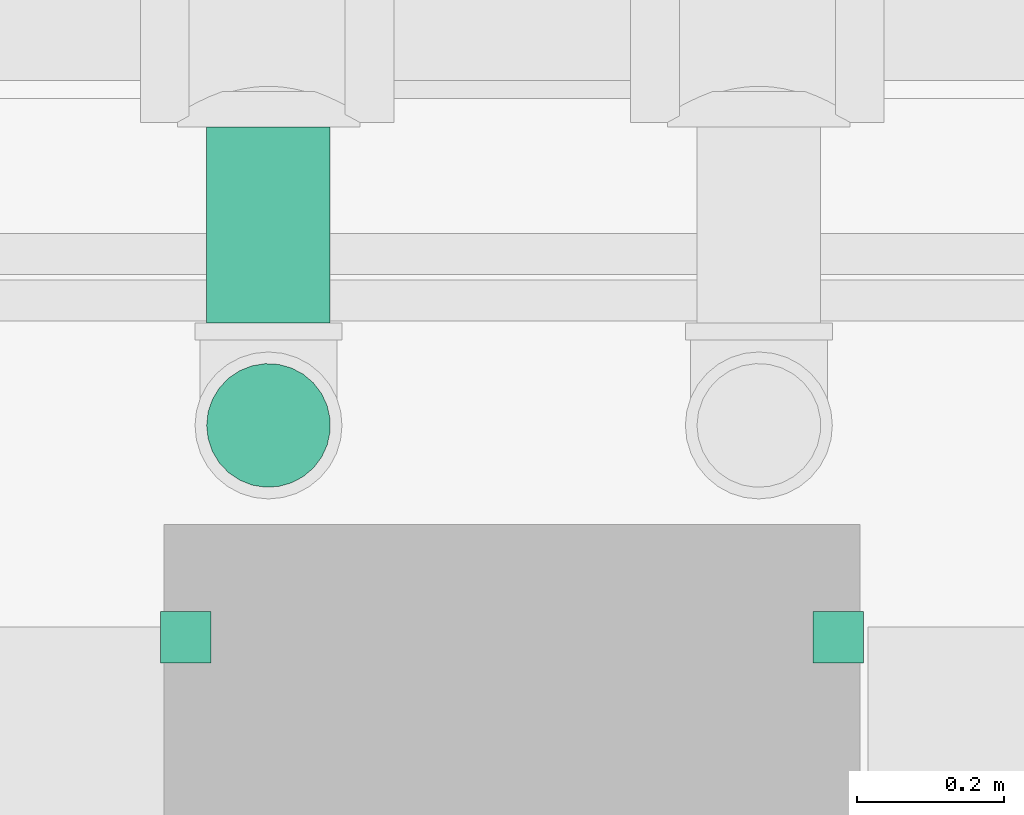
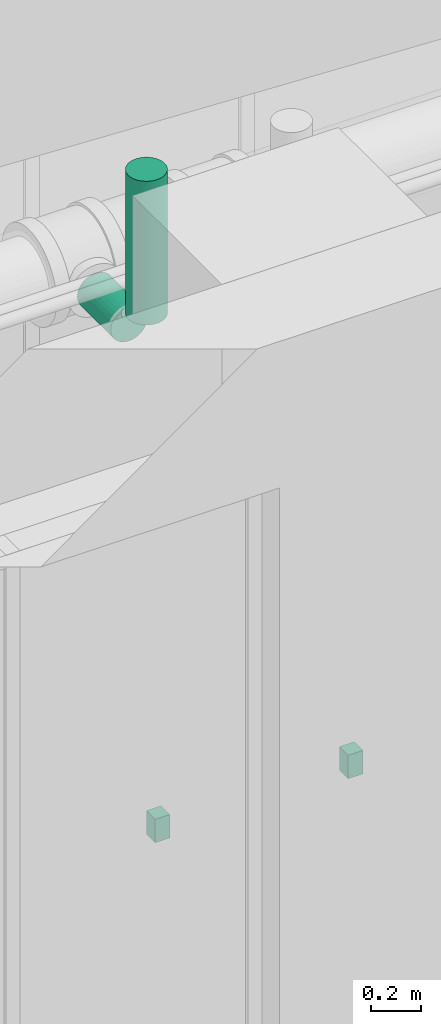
# One storey, part 75 of 108: 2 outlets, 2 pipe segments.
"""IFC4 building model written with IfcOpenShell, lengths in feet."""

from ifc_helpers import new_model, entity, si_unit, converted_unit, derived_unit, direction, frame, frame_2d, origin, origin_2d_with_axis, place, context, subcontext, project, spatial, rectangle, circle, extrude, source, transform, mapped, type_object, type_shapes, element, save


model = new_model("IFC4")

# Units and contexts
model_context = context("Model", 3, precision=0.0001, world=origin(), true_north=direction((6.12303176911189e-17, 1.0)))
body_context = subcontext(model_context, "Body", "Model", "MODEL_VIEW")
ifc_project = project(units=[converted_unit("LENGTHUNIT", "FOOT", entity("IfcRatioMeasure", 0.3048), si_unit("LENGTHUNIT", "METRE"), dimensions=[1, 0, 0, 0, 0, 0, 0]), converted_unit("AREAUNIT", "SQUARE FOOT", entity("IfcRatioMeasure", 0.09290304), si_unit("AREAUNIT", "SQUARE_METRE"), dimensions=[2, 0, 0, 0, 0, 0, 0]), converted_unit("VOLUMEUNIT", "CUBIC FOOT", entity("IfcRatioMeasure", 0.028316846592), si_unit("VOLUMEUNIT", "CUBIC_METRE"), dimensions=[3, 0, 0, 0, 0, 0, 0]), converted_unit("PLANEANGLEUNIT", "DEGREE", entity("IfcRatioMeasure", 0.0174532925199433), si_unit("PLANEANGLEUNIT", "RADIAN"), dimensions=[0, 0, 0, 0, 0, 0, 0]), si_unit("MASSUNIT", "GRAM", prefix="KILO"), derived_unit("MASSDENSITYUNIT", [(si_unit("MASSUNIT", "GRAM", prefix="KILO"), 1), (si_unit("LENGTHUNIT", "METRE"), -3)]), si_unit("TIMEUNIT", "SECOND"), si_unit("FREQUENCYUNIT", "HERTZ"), si_unit("THERMODYNAMICTEMPERATUREUNIT", "DEGREE_CELSIUS"), derived_unit("THERMALTRANSMITTANCEUNIT", [(si_unit("MASSUNIT", "GRAM", prefix="KILO"), 1), (si_unit("THERMODYNAMICTEMPERATUREUNIT", "KELVIN"), -1), (si_unit("TIMEUNIT", "SECOND"), -3)]), derived_unit("VOLUMETRICFLOWRATEUNIT", [(si_unit("LENGTHUNIT", "METRE"), 3), (si_unit("TIMEUNIT", "SECOND"), -1)]), si_unit("ELECTRICCURRENTUNIT", "AMPERE"), si_unit("ELECTRICVOLTAGEUNIT", "VOLT"), si_unit("POWERUNIT", "WATT"), si_unit("FORCEUNIT", "NEWTON"), si_unit("ILLUMINANCEUNIT", "LUX"), si_unit("LUMINOUSFLUXUNIT", "LUMEN"), si_unit("LUMINOUSINTENSITYUNIT", "CANDELA"), derived_unit("USERDEFINED", [(si_unit("MASSUNIT", "GRAM", prefix="KILO"), -1), (si_unit("LENGTHUNIT", "METRE"), -2), (si_unit("TIMEUNIT", "SECOND"), 3), (si_unit("LUMINOUSFLUXUNIT", "LUMEN"), 1)]), derived_unit("LINEARVELOCITYUNIT", [(si_unit("LENGTHUNIT", "METRE"), 1), (si_unit("TIMEUNIT", "SECOND"), -1)]), si_unit("PRESSUREUNIT", "PASCAL"), derived_unit("USERDEFINED", [(si_unit("LENGTHUNIT", "METRE"), -2), (si_unit("MASSUNIT", "GRAM", prefix="KILO"), 1), (si_unit("TIMEUNIT", "SECOND"), -2)])], contexts=[model_context])

# Site, building, storey
site_placement = place(None, origin())
site = spatial("IfcSite", under=ifc_project, at=site_placement, Name="Default", CompositionType="ELEMENT")
building_placement = place(site_placement, origin())
building = spatial("IfcBuilding", under=site, at=building_placement, CompositionType="ELEMENT")
storey_placement = place(building_placement, frame((0.0, 0.0, 168.0)))
storey = spatial("IfcBuildingStorey", under=building, at=storey_placement, Name="Level 15", CompositionType="ELEMENT", Elevation=168.0)

# Outlets
outlet_type = type_object("IfcOutletType", Name="Duplex-Standard 2", PredefinedType="POWEROUTLET")
shared_shape = source(origin(), body_context, "Body", "SweptSolid", [
    extrude(rectangle(XDim=0.229166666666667, YDim=0.375000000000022, at=origin_2d_with_axis()), frame((0.0, 0.0, -0.208333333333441), z_axis=(0.0, 0.0, 1.0), x_axis=(-1.0, 0.0, 0.0)), (0.0, 0.0, 1.0), 0.208333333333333),
    extrude(rectangle(XDim=0.229166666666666, YDim=0.375000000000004, at=origin_2d_with_axis()), frame((0.0, 0.0, 0.0), z_axis=(0.0, 0.0, 1.0), x_axis=(-1.0, 0.0, 0.0)), (0.0, 0.0, 1.0), 0.015625),
])
type_shapes(outlet_type, [shared_shape])
for number, where, z_axis, x_axis, name in (
    (1, (-0.90209263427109, -19.7657690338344, 2.3333333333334), (-1.0, 0.0, 0.0), (0.0, -1.0, 0.0), "Power-Recessed-All2:Duplex-Standard 2"),
    (2, (2.20213174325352, -19.7657690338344, 2.3333333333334), (1.0, 0.0, 0.0), (0.0, 1.0, 0.0), "Power-Recessed-All2:Duplex-Standard 2"),
):
    element("IfcOutlet", number, at=place(storey_placement, frame(where, z_axis=z_axis, x_axis=x_axis)), inside=storey, type_object=outlet_type, Name=name, ObjectType="Power-Recessed-All2:Duplex-Standard 2", PredefinedType="POWEROUTLET", context=body_context, shape_type="MappedRepresentation", body=[
        mapped(shared_shape, transform((0.0, 0.0, 0.0), scale=1.0)),
    ])

# Pipe segments
pipe_segment_type = type_object("IfcPipeSegmentType", Name="Pipe Types:Hydronic", PredefinedType="NOTDEFINED")
pipe_segment_1_placement = place(storey_placement, frame((-0.717435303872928, -19.1021378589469, 9.78127604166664)))
element("IfcPipeSegment", 3, at=pipe_segment_1_placement, inside=storey, type_object=pipe_segment_type, Name="Pipe Types:Hydronic", ObjectType="Pipe Types:Hydronic", PredefinedType="NOTDEFINED", context=body_context, shape_type="SweptSolid", body=[
    extrude(circle(Radius=0.276041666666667, at=frame_2d((6.10622663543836e-16, 0.0), x_axis=(1.0, 0.0))), frame((0.281275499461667, 0.281275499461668, 0.0), z_axis=(0.0, 0.0, 1.0), x_axis=(-1.0, 0.0, 0.0)), (0.0, 0.0, 1.0), 2.29136854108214),
])
pipe_segment_2_placement = place(storey_placement, frame((-0.717435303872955, -18.3647555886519, 9.05205783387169)))
element("IfcPipeSegment", 4, at=pipe_segment_2_placement, inside=storey, type_object=pipe_segment_type, Name="Pipe Types:Hydronic", ObjectType="Pipe Types:Hydronic", PredefinedType="NOTDEFINED", context=body_context, shape_type="SweptSolid", body=[
    extrude(circle(Radius=0.276041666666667, at=frame_2d((7.93809462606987e-15, 0.0), x_axis=(1.0, 0.0))), frame((0.281275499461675, 0.0, 0.281275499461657), z_axis=(0.0, 1.0, 0.0), x_axis=(-1.0, 0.0, 0.0)), (0.0, 0.0, 1.0), 0.874526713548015),
])

save(model, "model.ifc")
